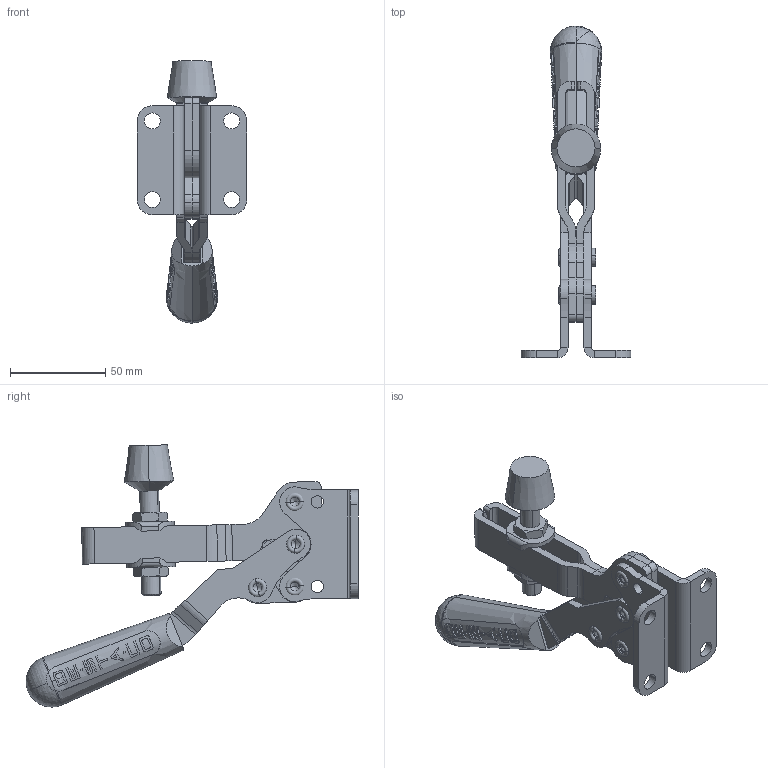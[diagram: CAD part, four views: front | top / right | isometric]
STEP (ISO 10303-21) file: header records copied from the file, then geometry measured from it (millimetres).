
FILE_DESCRIPTION((''),'2;1');
FILE_NAME('001_DESTACO_215_ASM','2024-09-12T',('SYSTEM'),(''),'PRO/ENGINEER BY PARAMETRIC TECHNOLOGY CORPORATION, 2016360','PRO/ENGINEER BY PARAMETRIC TECHNOLOGY CORPORATION, 2016360','');
FILE_SCHEMA(('AUTOMOTIVE_DESIGN { 1 0 10303 214 1 1 1 1 }'));
Length unit declared in the file: millimetre
Products named in the file (28): 235-U-BODY_14; 235-U-BODY_15; 235-U-BODY_5; 235-U-BODY_1; 235-U-BODY_0; 235-U-BODY_ASM; 235-U-BOT-BODY_20; 235-U-BOT-BODY_15; 235-U-BOT-BODY_19; 235-U-BOT-BODY_18; 235-U-BOT-BODY_17; 235-U-BOT-BODY_16_AF0; 235-U-BOT-BODY_11; 235-U-BOT-BODY_0_AF0; 235-U-BOT-BODY_2; 235-U-BOT-BODY_1_AF0; 235-U-BOTTOM_ASM; 235-U-IN-BODY_6; 235-U-IN-BODY_7; 235-U-IN-BODY_5; 235-U-IN-BODY_4; 235-U-INNER_ASM; 235-U-HNAD-BODY_10; 235-U-HNAD-BODY_14; 235-U-HNAD-BODY_9; 235-U-HNAD-BODY_8; 235-U-HANDLE_ASM; 001_DESTACO_215_ASM
Assembly tree (28 placements, depth 3):
  001_DESTACO_215_ASM
    235-U-BODY_ASM
      235-U-BODY_14
      235-U-BODY_15
      235-U-BODY_5
      235-U-BODY_1
      235-U-BODY_0
    235-U-BOTTOM_ASM
      235-U-BOT-BODY_20
      235-U-BOT-BODY_15
      235-U-BOT-BODY_19
      235-U-BOT-BODY_18
      235-U-BOT-BODY_17
      235-U-BOT-BODY_16_AF0
      235-U-BOT-BODY_11
      235-U-BOT-BODY_0_AF0
      235-U-BOT-BODY_2
      235-U-BOT-BODY_1_AF0
    235-U-INNER_ASM  x2
      235-U-IN-BODY_6
      235-U-IN-BODY_7
      235-U-IN-BODY_5
      235-U-IN-BODY_4
    235-U-HANDLE_ASM
      235-U-HNAD-BODY_10
      235-U-HNAD-BODY_14
      235-U-HNAD-BODY_9
      235-U-HNAD-BODY_8
Bounding box: 57.61 x 174.35 x 137.72 mm (x, y, z)
Volume: 135314.3 mm3; surface area: 76220.3 mm2
Topology: 27 solids, 27 shells, 736 faces, 1852 edges, 1193 vertices
Faces by surface type: plane 334, cylinder 267, cone 108, torus 18, sphere 9
Entity records: 32704 total; most frequent: CARTESIAN_POINT 7209, DIRECTION 3596, ORIENTED_EDGE 3474, PRESENTATION_STYLE_ASSIGNMENT 2019, STYLED_ITEM 2019, CURVE_STYLE 1737, EDGE_CURVE 1737, AXIS2_PLACEMENT_3D 1441
